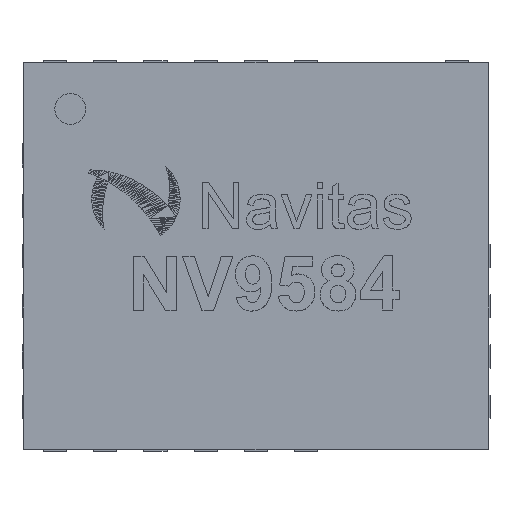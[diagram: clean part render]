
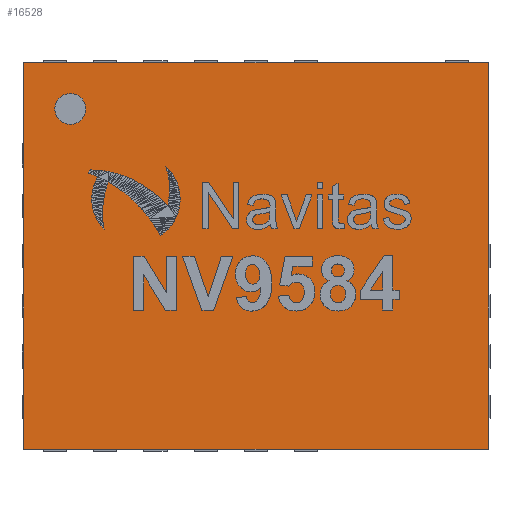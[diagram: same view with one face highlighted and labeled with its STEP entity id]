
A CAD part, top view. The second image highlights one B-rep face of the part: STEP entity #16528.
In plain terms, the highlighted planar face has unit normal (0, 0, 1).
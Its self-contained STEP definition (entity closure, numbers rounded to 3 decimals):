
#648=FACE_OUTER_BOUND('',#1915,.T.);
#1915=EDGE_LOOP('',(#10724,#10725,#10726,#10727));
#3191=LINE('',#23179,#5185);
#3195=LINE('',#23186,#5189);
#3198=LINE('',#23193,#5192);
#3200=LINE('',#23196,#5194);
#5185=VECTOR('',#18951,10.);
#5189=VECTOR('',#18957,10.);
#5192=VECTOR('',#18964,10.);
#5194=VECTOR('',#18968,10.);
#7179=VERTEX_POINT('',#23176);
#7180=VERTEX_POINT('',#23178);
#7182=VERTEX_POINT('',#23184);
#7184=VERTEX_POINT('',#23192);
#8336=EDGE_CURVE('',#7179,#7180,#3191,.T.);
#8340=EDGE_CURVE('',#7182,#7179,#3195,.T.);
#8343=EDGE_CURVE('',#7180,#7184,#3198,.T.);
#8345=EDGE_CURVE('',#7184,#7182,#3200,.T.);
#10724=ORIENTED_EDGE('',*,*,#8345,.F.);
#10725=ORIENTED_EDGE('',*,*,#8343,.F.);
#10726=ORIENTED_EDGE('',*,*,#8336,.F.);
#10727=ORIENTED_EDGE('',*,*,#8340,.F.);
#15449=PLANE('',#17835);
#16528=ADVANCED_FACE('',(#648),#15449,.F.);
#17835=AXIS2_PLACEMENT_3D('',#23197,#18969,#18970);
#18951=DIRECTION('',(0.,1.,0.));
#18957=DIRECTION('',(-1.,0.,0.));
#18964=DIRECTION('',(1.,0.,0.));
#18968=DIRECTION('',(0.,-1.,0.));
#18969=DIRECTION('center_axis',(0.,0.,-1.));
#18970=DIRECTION('ref_axis',(-1.,0.,0.));
#23176=CARTESIAN_POINT('',(-6.,0.,1.7));
#23178=CARTESIAN_POINT('',(-6.,5.,1.7));
#23179=CARTESIAN_POINT('',(-6.,0.,1.7));
#23184=CARTESIAN_POINT('',(0.,0.,1.7));
#23186=CARTESIAN_POINT('',(0.,0.,1.7));
#23192=CARTESIAN_POINT('',(0.,5.,1.7));
#23193=CARTESIAN_POINT('',(-6.,5.,1.7));
#23196=CARTESIAN_POINT('',(0.,5.,1.7));
#23197=CARTESIAN_POINT('Origin',(-3.,2.5,1.7));
